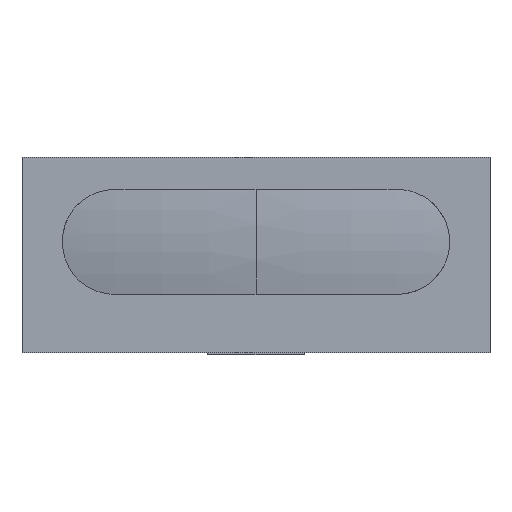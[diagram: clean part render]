
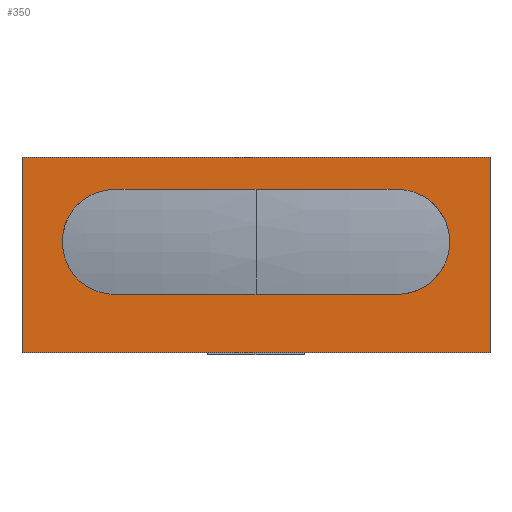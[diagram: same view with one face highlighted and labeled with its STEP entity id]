
A CAD part, left-side view. The second image highlights one B-rep face of the part: STEP entity #350.
In plain terms, the highlighted planar face has unit normal (-1, 0, 0).
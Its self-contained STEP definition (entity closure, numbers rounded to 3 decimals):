
#15 = AXIS2_PLACEMENT_3D ( 'NONE', #431, #182, #301 ) ;
#23 = DIRECTION ( 'NONE',  ( 0., -1., 0. ) ) ;
#39 = VECTOR ( 'NONE', #229, 1000. ) ;
#56 = PLANE ( 'NONE',  #15 ) ;
#60 = VERTEX_POINT ( 'NONE', #141 ) ;
#62 = EDGE_CURVE ( 'NONE', #640, #525, #503, .T. ) ;
#64 = VERTEX_POINT ( 'NONE', #676 ) ;
#71 = CARTESIAN_POINT ( 'NONE',  ( -28.6, 5.8, 3.75 ) ) ;
#104 = EDGE_CURVE ( 'NONE', #64, #60, #670, .T. ) ;
#110 = DIRECTION ( 'NONE',  ( 0., 0., -1. ) ) ;
#115 = ORIENTED_EDGE ( 'NONE', *, *, #194, .F. ) ;
#126 = ORIENTED_EDGE ( 'NONE', *, *, #298, .T. ) ;
#133 = CIRCLE ( 'NONE', #756, 1.3 ) ;
#141 = CARTESIAN_POINT ( 'NONE',  ( -28.6, -5.8, 8.6 ) ) ;
#148 = EDGE_CURVE ( 'NONE', #739, #453, #395, .T. ) ;
#161 = DIRECTION ( 'NONE',  ( 0., -1., 0. ) ) ;
#172 = EDGE_CURVE ( 'NONE', #60, #453, #698, .T. ) ;
#173 = DIRECTION ( 'NONE',  ( -1., 0., 0. ) ) ;
#182 = DIRECTION ( 'NONE',  ( 1., 0., 0. ) ) ;
#187 = FACE_BOUND ( 'NONE', #368, .T. ) ;
#194 = EDGE_CURVE ( 'NONE', #776, #213, #281, .T. ) ;
#213 = VERTEX_POINT ( 'NONE', #644 ) ;
#217 = CARTESIAN_POINT ( 'NONE',  ( -28.6, -5.8, 8.6 ) ) ;
#229 = DIRECTION ( 'NONE',  ( 0., -1., 0. ) ) ;
#248 = LINE ( 'NONE', #663, #403 ) ;
#251 = VECTOR ( 'NONE', #491, 1000. ) ;
#281 = LINE ( 'NONE', #520, #720 ) ;
#298 = EDGE_CURVE ( 'NONE', #64, #739, #248, .T. ) ;
#301 = DIRECTION ( 'NONE',  ( 0., 0., -1. ) ) ;
#317 = ORIENTED_EDGE ( 'NONE', *, *, #148, .T. ) ;
#318 = DIRECTION ( 'NONE',  ( 0., 0., -1. ) ) ;
#350 = ADVANCED_FACE ( 'NONE', ( #187, #478 ), #56, .F. ) ;
#352 = ORIENTED_EDGE ( 'NONE', *, *, #172, .F. ) ;
#359 = DIRECTION ( 'NONE',  ( 0., 0., -1. ) ) ;
#365 = ORIENTED_EDGE ( 'NONE', *, *, #542, .F. ) ;
#368 = EDGE_LOOP ( 'NONE', ( #115, #365, #658, #771 ) ) ;
#376 = CARTESIAN_POINT ( 'NONE',  ( -28.6, 3.5, 6.5 ) ) ;
#386 = EDGE_CURVE ( 'NONE', #213, #640, #537, .T. ) ;
#395 = LINE ( 'NONE', #582, #39 ) ;
#396 = ORIENTED_EDGE ( 'NONE', *, *, #104, .F. ) ;
#399 = DIRECTION ( 'NONE',  ( 0., 0., -1. ) ) ;
#403 = VECTOR ( 'NONE', #110, 1000. ) ;
#409 = EDGE_LOOP ( 'NONE', ( #317, #352, #396, #126 ) ) ;
#422 = CARTESIAN_POINT ( 'NONE',  ( -28.6, -3.5, 7.8 ) ) ;
#431 = CARTESIAN_POINT ( 'NONE',  ( -28.6, -5.8, 8.6 ) ) ;
#453 = VERTEX_POINT ( 'NONE', #740 ) ;
#478 = FACE_OUTER_BOUND ( 'NONE', #409, .T. ) ;
#485 = AXIS2_PLACEMENT_3D ( 'NONE', #604, #173, #359 ) ;
#491 = DIRECTION ( 'NONE',  ( 0., 1., 0. ) ) ;
#503 = LINE ( 'NONE', #630, #251 ) ;
#520 = CARTESIAN_POINT ( 'NONE',  ( -28.6, -5.8, 5.2 ) ) ;
#524 = VECTOR ( 'NONE', #23, 1000. ) ;
#525 = VERTEX_POINT ( 'NONE', #669 ) ;
#537 = CIRCLE ( 'NONE', #485, 1.3 ) ;
#542 = EDGE_CURVE ( 'NONE', #525, #776, #133, .T. ) ;
#553 = CARTESIAN_POINT ( 'NONE',  ( -28.6, -5.8, 8.6 ) ) ;
#582 = CARTESIAN_POINT ( 'NONE',  ( -28.6, -5.8, 3.75 ) ) ;
#604 = CARTESIAN_POINT ( 'NONE',  ( -28.6, -3.5, 6.5 ) ) ;
#615 = DIRECTION ( 'NONE',  ( -1., 0., 0. ) ) ;
#619 = CARTESIAN_POINT ( 'NONE',  ( -28.6, 3.5, 5.2 ) ) ;
#630 = CARTESIAN_POINT ( 'NONE',  ( -28.6, -5.8, 7.8 ) ) ;
#640 = VERTEX_POINT ( 'NONE', #422 ) ;
#644 = CARTESIAN_POINT ( 'NONE',  ( -28.6, -3.5, 5.2 ) ) ;
#658 = ORIENTED_EDGE ( 'NONE', *, *, #62, .F. ) ;
#663 = CARTESIAN_POINT ( 'NONE',  ( -28.6, 5.8, 8.6 ) ) ;
#669 = CARTESIAN_POINT ( 'NONE',  ( -28.6, 3.5, 7.8 ) ) ;
#670 = LINE ( 'NONE', #553, #524 ) ;
#676 = CARTESIAN_POINT ( 'NONE',  ( -28.6, 5.8, 8.6 ) ) ;
#698 = LINE ( 'NONE', #217, #757 ) ;
#720 = VECTOR ( 'NONE', #161, 1000. ) ;
#739 = VERTEX_POINT ( 'NONE', #71 ) ;
#740 = CARTESIAN_POINT ( 'NONE',  ( -28.6, -5.8, 3.75 ) ) ;
#756 = AXIS2_PLACEMENT_3D ( 'NONE', #376, #615, #318 ) ;
#757 = VECTOR ( 'NONE', #399, 1000. ) ;
#771 = ORIENTED_EDGE ( 'NONE', *, *, #386, .F. ) ;
#776 = VERTEX_POINT ( 'NONE', #619 ) ;
